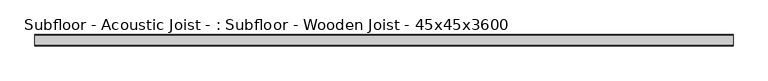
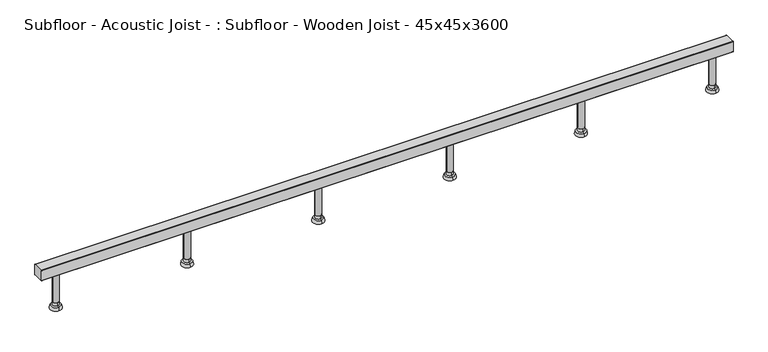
"""IFC4 building model written with IfcOpenShell, lengths in millimetres: beam geometry, Subfloor - Acoustic Joist - : Subfloor - Wooden Joist - 45x45x3600."""

from ifc_helpers import new_model, si_unit, point, frame, frame_2d, origin, place, context, project, spatial, polyline, circle_curve, trimmed, segment, composite_curve, outline, extrude, source, transform, mapped, element, save
from ifc_brep_helpers import plane_surface, cylinder_surface, revolved_surface, advanced_brep


def subfloor_acoustic_joist_subfloor_wooden_joist_45x45x3600_29be24ae(model_context):
    return source(origin(), model_context, "Body", "SolidModel", [
        extrude(outline(composite_curve([segment(trimmed(circle_curve(frame_2d((786.985173, 0.0)), 12.5043167), [point((774.4808562, 0.0))], [point((799.4894897, 0.0))], False, "CARTESIAN"), True, "CONTINUOUS"), segment(trimmed(circle_curve(frame_2d((786.985173, 0.0)), 12.5043167), [point((799.4894897, 0.0))], [point((774.4808562, 0.0))], False, "CARTESIAN"), True, "CONTINUOUS")], self_intersect=False)), frame((0.0, 0.0, -143.9999995), z_axis=(0.0, 0.0, 1.0), x_axis=(1.0, 0.0, 0.0)), (0.0, 0.0, 1.0), 121.4999995),
        advanced_brep(
        [(786.985173, 0.0, -172.5), (786.985173, -22.5, -172.5), (786.985173, 22.5, -172.5), (786.985173, 12.5043167, -143.9999995), (786.985173, -12.5043167, -143.9999995), (786.985173, 0.0, -143.9999995), (786.985173, 19.5414562, -159.856555), (786.985173, -19.5414562, -159.856555), (786.985173, -12.5043167, -158.5618465), (786.985173, 12.5043167, -158.5618465)],
        [
            (0, 1),
            (1, 2, circle_curve(frame((786.985173, 0.0, -172.5), z_axis=(0.0, 0.0, -1.0), x_axis=(0.0, -1.0, 0.0)), 22.5)),
            (2, 0),
            (2, 1, circle_curve(frame((786.985173, 0.0, -172.5), z_axis=(0.0, 0.0, -1.0), x_axis=(0.0, -1.0, 0.0)), 22.5)),
            (3, 4, circle_curve(frame((786.985173, 0.0, -143.9999995), z_axis=(0.0, 0.0, 1.0), x_axis=(0.0, -1.0, 0.0)), 12.5043167)),
            (4, 5),
            (5, 3),
            (4, 3, circle_curve(frame((786.985173, 0.0, -143.9999995), z_axis=(0.0, 0.0, 1.0), x_axis=(0.0, -1.0, 0.0)), 12.5043167)),
            (6, 7, circle_curve(frame((786.985173, 0.0, -159.856555), z_axis=(0.0, 0.0, 1.0), x_axis=(0.0, -1.0, 0.0)), 19.5414562)),
            (7, 8),
            (8, 9, circle_curve(frame((786.985173, 0.0, -158.5618465), z_axis=(0.0, 0.0, -1.0), x_axis=(0.0, -1.0, 0.0)), 12.5043167)),
            (9, 6),
            (7, 6, circle_curve(frame((786.985173, 0.0, -159.856555), z_axis=(0.0, 0.0, 1.0), x_axis=(0.0, -1.0, 0.0)), 19.5414562)),
            (9, 8, circle_curve(frame((786.985173, 0.0, -158.5618465), z_axis=(0.0, 0.0, -1.0), x_axis=(0.0, -1.0, 0.0)), 12.5043167)),
            (8, 4),
            (3, 9),
            (1, 7),
            (6, 2),
        ],
        [
            plane_surface(frame((786.985173, 0.0, -172.5), z_axis=(0.0, 0.0, -1.0), x_axis=(0.0, -1.0, 0.0))),
            plane_surface(frame((786.985173, 0.0, -143.9999995), z_axis=(0.0, 0.0, 1.0), x_axis=(0.0, -1.0, 0.0))),
            revolved_surface(polyline([(786.985173, -12.5043167, -158.5618465), (786.985173, -19.5414562, -159.856555)]), (786.985173, 0.0, -178.1427452), (0.0, 0.0, -1.0)),
            cylinder_surface(frame((786.985173, 0.0, -178.1427452), z_axis=(0.0, 0.0, -1.0), x_axis=(0.0, -1.0, 0.0)), 12.5043167),
            revolved_surface(polyline([(786.985173, -19.5414562, -159.856555), (786.985173, -22.5, -172.5)]), (786.985173, 0.0, -178.1427452), (0.0, 0.0, -1.0)),
        ],
        [
            (0, [[1, 2, 3]]),
            (0, [[-3, 4, -1]]),
            (1, [[5, 6, 7]]),
            (1, [[8, -7, -6]]),
            (2, [[9, 10, 11, 12]]),
            (2, [[13, -12, 14, -10]]),
            (3, [[-11, 15, -5, 16]]),
            (3, [[-14, -16, -8, -15]]),
            (4, [[-2, 17, -9, 18]]),
            (4, [[-4, -18, -13, -17]]),
        ],
    ),
        extrude(outline(composite_curve([segment(trimmed(circle_curve(frame_2d((262.328391, 0.0)), 12.5043167), [point((249.8240742, 0.0))], [point((274.8327077, 0.0))], False, "CARTESIAN"), True, "CONTINUOUS"), segment(trimmed(circle_curve(frame_2d((262.328391, 0.0)), 12.5043167), [point((274.8327077, 0.0))], [point((249.8240742, 0.0))], False, "CARTESIAN"), True, "CONTINUOUS")], self_intersect=False)), frame((0.0, 0.0, -143.9999995), z_axis=(0.0, 0.0, 1.0), x_axis=(1.0, 0.0, 0.0)), (0.0, 0.0, 1.0), 121.4999995),
        advanced_brep(
        [(262.328391, 0.0, -172.5), (262.328391, -22.5, -172.5), (262.328391, 22.5, -172.5), (262.328391, 12.5043167, -143.9999995), (262.328391, -12.5043167, -143.9999995), (262.328391, 0.0, -143.9999995), (262.328391, 19.5414562, -159.856555), (262.328391, -19.5414562, -159.856555), (262.328391, -12.5043167, -158.5618465), (262.328391, 12.5043167, -158.5618465)],
        [
            (0, 1),
            (1, 2, circle_curve(frame((262.328391, 0.0, -172.5), z_axis=(0.0, 0.0, -1.0), x_axis=(0.0, -1.0, 0.0)), 22.5)),
            (2, 0),
            (2, 1, circle_curve(frame((262.328391, 0.0, -172.5), z_axis=(0.0, 0.0, -1.0), x_axis=(0.0, -1.0, 0.0)), 22.5)),
            (3, 4, circle_curve(frame((262.328391, 0.0, -143.9999995), z_axis=(0.0, 0.0, 1.0), x_axis=(0.0, -1.0, 0.0)), 12.5043167)),
            (4, 5),
            (5, 3),
            (4, 3, circle_curve(frame((262.328391, 0.0, -143.9999995), z_axis=(0.0, 0.0, 1.0), x_axis=(0.0, -1.0, 0.0)), 12.5043167)),
            (6, 7, circle_curve(frame((262.328391, 0.0, -159.856555), z_axis=(0.0, 0.0, 1.0), x_axis=(0.0, -1.0, 0.0)), 19.5414562)),
            (7, 8),
            (8, 9, circle_curve(frame((262.328391, 0.0, -158.5618465), z_axis=(0.0, 0.0, -1.0), x_axis=(0.0, -1.0, 0.0)), 12.5043167)),
            (9, 6),
            (7, 6, circle_curve(frame((262.328391, 0.0, -159.856555), z_axis=(0.0, 0.0, 1.0), x_axis=(0.0, -1.0, 0.0)), 19.5414562)),
            (9, 8, circle_curve(frame((262.328391, 0.0, -158.5618465), z_axis=(0.0, 0.0, -1.0), x_axis=(0.0, -1.0, 0.0)), 12.5043167)),
            (8, 4),
            (3, 9),
            (1, 7),
            (6, 2),
        ],
        [
            plane_surface(frame((262.328391, 0.0, -172.5), z_axis=(0.0, 0.0, -1.0), x_axis=(0.0, -1.0, 0.0))),
            plane_surface(frame((262.328391, 0.0, -143.9999995), z_axis=(0.0, 0.0, 1.0), x_axis=(0.0, -1.0, 0.0))),
            revolved_surface(polyline([(262.328391, -12.5043167, -158.5618465), (262.328391, -19.5414562, -159.856555)]), (262.328391, 0.0, -178.1427452), (0.0, 0.0, -1.0)),
            cylinder_surface(frame((262.328391, 0.0, -178.1427452), z_axis=(0.0, 0.0, -1.0), x_axis=(0.0, -1.0, 0.0)), 12.5043167),
            revolved_surface(polyline([(262.328391, -19.5414562, -159.856555), (262.328391, -22.5, -172.5)]), (262.328391, 0.0, -178.1427452), (0.0, 0.0, -1.0)),
        ],
        [
            (0, [[1, 2, 3]]),
            (0, [[-3, 4, -1]]),
            (1, [[5, 6, 7]]),
            (1, [[8, -7, -6]]),
            (2, [[9, 10, 11, 12]]),
            (2, [[13, -12, 14, -10]]),
            (3, [[-11, 15, -5, 16]]),
            (3, [[-14, -16, -8, -15]]),
            (4, [[-2, 17, -9, 18]]),
            (4, [[-4, -18, -13, -17]]),
        ],
    ),
        extrude(outline(composite_curve([segment(trimmed(circle_curve(frame_2d((-262.328391, 0.0)), 12.5043167), [point((-274.8327077, 0.0))], [point((-249.8240742, 0.0))], False, "CARTESIAN"), True, "CONTINUOUS"), segment(trimmed(circle_curve(frame_2d((-262.328391, 0.0)), 12.5043167), [point((-249.8240742, 0.0))], [point((-274.8327077, 0.0))], False, "CARTESIAN"), True, "CONTINUOUS")], self_intersect=False)), frame((0.0, 0.0, -143.9999995), z_axis=(0.0, 0.0, 1.0), x_axis=(1.0, 0.0, 0.0)), (0.0, 0.0, 1.0), 121.4999995),
        advanced_brep(
        [(-262.328391, 0.0, -172.5), (-262.328391, -22.5, -172.5), (-262.328391, 22.5, -172.5), (-262.328391, 12.5043167, -143.9999995), (-262.328391, -12.5043167, -143.9999995), (-262.328391, 0.0, -143.9999995), (-262.328391, 19.5414562, -159.856555), (-262.328391, -19.5414562, -159.856555), (-262.328391, -12.5043167, -158.5618465), (-262.328391, 12.5043167, -158.5618465)],
        [
            (0, 1),
            (1, 2, circle_curve(frame((-262.328391, 0.0, -172.5), z_axis=(0.0, 0.0, -1.0), x_axis=(0.0, -1.0, 0.0)), 22.5)),
            (2, 0),
            (2, 1, circle_curve(frame((-262.328391, 0.0, -172.5), z_axis=(0.0, 0.0, -1.0), x_axis=(0.0, -1.0, 0.0)), 22.5)),
            (3, 4, circle_curve(frame((-262.328391, 0.0, -143.9999995), z_axis=(0.0, 0.0, 1.0), x_axis=(0.0, -1.0, 0.0)), 12.5043167)),
            (4, 5),
            (5, 3),
            (4, 3, circle_curve(frame((-262.328391, 0.0, -143.9999995), z_axis=(0.0, 0.0, 1.0), x_axis=(0.0, -1.0, 0.0)), 12.5043167)),
            (6, 7, circle_curve(frame((-262.328391, 0.0, -159.856555), z_axis=(0.0, 0.0, 1.0), x_axis=(0.0, -1.0, 0.0)), 19.5414562)),
            (7, 8),
            (8, 9, circle_curve(frame((-262.328391, 0.0, -158.5618465), z_axis=(0.0, 0.0, -1.0), x_axis=(0.0, -1.0, 0.0)), 12.5043167)),
            (9, 6),
            (7, 6, circle_curve(frame((-262.328391, 0.0, -159.856555), z_axis=(0.0, 0.0, 1.0), x_axis=(0.0, -1.0, 0.0)), 19.5414562)),
            (9, 8, circle_curve(frame((-262.328391, 0.0, -158.5618465), z_axis=(0.0, 0.0, -1.0), x_axis=(0.0, -1.0, 0.0)), 12.5043167)),
            (8, 4),
            (3, 9),
            (1, 7),
            (6, 2),
        ],
        [
            plane_surface(frame((-262.328391, 0.0, -172.5), z_axis=(0.0, 0.0, -1.0), x_axis=(0.0, -1.0, 0.0))),
            plane_surface(frame((-262.328391, 0.0, -143.9999995), z_axis=(0.0, 0.0, 1.0), x_axis=(0.0, -1.0, 0.0))),
            revolved_surface(polyline([(-262.328391, -12.5043167, -158.5618465), (-262.328391, -19.5414562, -159.856555)]), (-262.328391, 0.0, -178.1427452), (0.0, 0.0, -1.0)),
            cylinder_surface(frame((-262.328391, 0.0, -178.1427452), z_axis=(0.0, 0.0, -1.0), x_axis=(0.0, -1.0, 0.0)), 12.5043167),
            revolved_surface(polyline([(-262.328391, -19.5414562, -159.856555), (-262.328391, -22.5, -172.5)]), (-262.328391, 0.0, -178.1427452), (0.0, 0.0, -1.0)),
        ],
        [
            (0, [[1, 2, 3]]),
            (0, [[-3, 4, -1]]),
            (1, [[5, 6, 7]]),
            (1, [[8, -7, -6]]),
            (2, [[9, 10, 11, 12]]),
            (2, [[13, -12, 14, -10]]),
            (3, [[-11, 15, -5, 16]]),
            (3, [[-14, -16, -8, -15]]),
            (4, [[-2, 17, -9, 18]]),
            (4, [[-4, -18, -13, -17]]),
        ],
    ),
        extrude(outline(composite_curve([segment(trimmed(circle_curve(frame_2d((-786.985173, 0.0)), 12.5043167), [point((-799.4894897, 0.0))], [point((-774.4808562, 0.0))], False, "CARTESIAN"), True, "CONTINUOUS"), segment(trimmed(circle_curve(frame_2d((-786.985173, 0.0)), 12.5043167), [point((-774.4808562, 0.0))], [point((-799.4894897, 0.0))], False, "CARTESIAN"), True, "CONTINUOUS")], self_intersect=False)), frame((0.0, 0.0, -143.9999995), z_axis=(0.0, 0.0, 1.0), x_axis=(1.0, 0.0, 0.0)), (0.0, 0.0, 1.0), 121.4999995),
        advanced_brep(
        [(-786.985173, 0.0, -172.5), (-786.985173, -22.5, -172.5), (-786.985173, 22.5, -172.5), (-786.985173, 12.5043167, -143.9999995), (-786.985173, -12.5043167, -143.9999995), (-786.985173, 0.0, -143.9999995), (-786.985173, 19.5414562, -159.856555), (-786.985173, -19.5414562, -159.856555), (-786.985173, -12.5043167, -158.5618465), (-786.985173, 12.5043167, -158.5618465)],
        [
            (0, 1),
            (1, 2, circle_curve(frame((-786.985173, 0.0, -172.5), z_axis=(0.0, 0.0, -1.0), x_axis=(0.0, -1.0, 0.0)), 22.5)),
            (2, 0),
            (2, 1, circle_curve(frame((-786.985173, 0.0, -172.5), z_axis=(0.0, 0.0, -1.0), x_axis=(0.0, -1.0, 0.0)), 22.5)),
            (3, 4, circle_curve(frame((-786.985173, 0.0, -143.9999995), z_axis=(0.0, 0.0, 1.0), x_axis=(0.0, -1.0, 0.0)), 12.5043167)),
            (4, 5),
            (5, 3),
            (4, 3, circle_curve(frame((-786.985173, 0.0, -143.9999995), z_axis=(0.0, 0.0, 1.0), x_axis=(0.0, -1.0, 0.0)), 12.5043167)),
            (6, 7, circle_curve(frame((-786.985173, 0.0, -159.856555), z_axis=(0.0, 0.0, 1.0), x_axis=(0.0, -1.0, 0.0)), 19.5414562)),
            (7, 8),
            (8, 9, circle_curve(frame((-786.985173, 0.0, -158.5618465), z_axis=(0.0, 0.0, -1.0), x_axis=(0.0, -1.0, 0.0)), 12.5043167)),
            (9, 6),
            (7, 6, circle_curve(frame((-786.985173, 0.0, -159.856555), z_axis=(0.0, 0.0, 1.0), x_axis=(0.0, -1.0, 0.0)), 19.5414562)),
            (9, 8, circle_curve(frame((-786.985173, 0.0, -158.5618465), z_axis=(0.0, 0.0, -1.0), x_axis=(0.0, -1.0, 0.0)), 12.5043167)),
            (8, 4),
            (3, 9),
            (1, 7),
            (6, 2),
        ],
        [
            plane_surface(frame((-786.985173, 0.0, -172.5), z_axis=(0.0, 0.0, -1.0), x_axis=(0.0, -1.0, 0.0))),
            plane_surface(frame((-786.985173, 0.0, -143.9999995), z_axis=(0.0, 0.0, 1.0), x_axis=(0.0, -1.0, 0.0))),
            revolved_surface(polyline([(-786.985173, -12.5043167, -158.5618465), (-786.985173, -19.5414562, -159.856555)]), (-786.985173, 0.0, -178.1427452), (0.0, 0.0, -1.0)),
            cylinder_surface(frame((-786.985173, 0.0, -178.1427452), z_axis=(0.0, 0.0, -1.0), x_axis=(0.0, -1.0, 0.0)), 12.5043167),
            revolved_surface(polyline([(-786.985173, -19.5414562, -159.856555), (-786.985173, -22.5, -172.5)]), (-786.985173, 0.0, -178.1427452), (0.0, 0.0, -1.0)),
        ],
        [
            (0, [[1, 2, 3]]),
            (0, [[-3, 4, -1]]),
            (1, [[5, 6, 7]]),
            (1, [[8, -7, -6]]),
            (2, [[9, 10, 11, 12]]),
            (2, [[13, -12, 14, -10]]),
            (3, [[-11, 15, -5, 16]]),
            (3, [[-14, -16, -8, -15]]),
            (4, [[-2, 17, -9, 18]]),
            (4, [[-4, -18, -13, -17]]),
        ],
    ),
        extrude(outline(composite_curve([segment(trimmed(circle_curve(frame_2d((1311.641955, 0.0)), 12.5043167), [point((1299.1376382, 0.0))], [point((1324.1462717, 0.0))], False, "CARTESIAN"), True, "CONTINUOUS"), segment(trimmed(circle_curve(frame_2d((1311.641955, 0.0)), 12.5043167), [point((1324.1462717, 0.0))], [point((1299.1376382, 0.0))], False, "CARTESIAN"), True, "CONTINUOUS")], self_intersect=False)), frame((0.0, 0.0, -143.9999995), z_axis=(0.0, 0.0, 1.0), x_axis=(1.0, 0.0, 0.0)), (0.0, 0.0, 1.0), 121.4999995),
        advanced_brep(
        [(1311.641955, 0.0, -172.5), (1311.641955, -22.5, -172.5), (1311.641955, 22.5, -172.5), (1311.641955, 12.5043167, -143.9999995), (1311.641955, -12.5043167, -143.9999995), (1311.641955, 0.0, -143.9999995), (1311.641955, 19.5414562, -159.856555), (1311.641955, -19.5414562, -159.856555), (1311.641955, -12.5043167, -158.5618465), (1311.641955, 12.5043167, -158.5618465)],
        [
            (0, 1),
            (1, 2, circle_curve(frame((1311.641955, 0.0, -172.5), z_axis=(0.0, 0.0, -1.0), x_axis=(0.0, -1.0, 0.0)), 22.5)),
            (2, 0),
            (2, 1, circle_curve(frame((1311.641955, 0.0, -172.5), z_axis=(0.0, 0.0, -1.0), x_axis=(0.0, -1.0, 0.0)), 22.5)),
            (3, 4, circle_curve(frame((1311.641955, 0.0, -143.9999995), z_axis=(0.0, 0.0, 1.0), x_axis=(0.0, -1.0, 0.0)), 12.5043167)),
            (4, 5),
            (5, 3),
            (4, 3, circle_curve(frame((1311.641955, 0.0, -143.9999995), z_axis=(0.0, 0.0, 1.0), x_axis=(0.0, -1.0, 0.0)), 12.5043167)),
            (6, 7, circle_curve(frame((1311.641955, 0.0, -159.856555), z_axis=(0.0, 0.0, 1.0), x_axis=(0.0, -1.0, 0.0)), 19.5414562)),
            (7, 8),
            (8, 9, circle_curve(frame((1311.641955, 0.0, -158.5618465), z_axis=(0.0, 0.0, -1.0), x_axis=(0.0, -1.0, 0.0)), 12.5043167)),
            (9, 6),
            (7, 6, circle_curve(frame((1311.641955, 0.0, -159.856555), z_axis=(0.0, 0.0, 1.0), x_axis=(0.0, -1.0, 0.0)), 19.5414562)),
            (9, 8, circle_curve(frame((1311.641955, 0.0, -158.5618465), z_axis=(0.0, 0.0, -1.0), x_axis=(0.0, -1.0, 0.0)), 12.5043167)),
            (8, 4),
            (3, 9),
            (1, 7),
            (6, 2),
        ],
        [
            plane_surface(frame((1311.641955, 0.0, -172.5), z_axis=(0.0, 0.0, -1.0), x_axis=(0.0, -1.0, 0.0))),
            plane_surface(frame((1311.641955, 0.0, -143.9999995), z_axis=(0.0, 0.0, 1.0), x_axis=(0.0, -1.0, 0.0))),
            revolved_surface(polyline([(1311.641955, -12.5043167, -158.5618465), (1311.641955, -19.5414562, -159.856555)]), (1311.641955, 0.0, -178.1427452), (0.0, 0.0, -1.0)),
            cylinder_surface(frame((1311.641955, 0.0, -178.1427452), z_axis=(0.0, 0.0, -1.0), x_axis=(0.0, -1.0, 0.0)), 12.5043167),
            revolved_surface(polyline([(1311.641955, -19.5414562, -159.856555), (1311.641955, -22.5, -172.5)]), (1311.641955, 0.0, -178.1427452), (0.0, 0.0, -1.0)),
        ],
        [
            (0, [[1, 2, 3]]),
            (0, [[-3, 4, -1]]),
            (1, [[5, 6, 7]]),
            (1, [[8, -7, -6]]),
            (2, [[9, 10, 11, 12]]),
            (2, [[13, -12, 14, -10]]),
            (3, [[-11, 15, -5, 16]]),
            (3, [[-14, -16, -8, -15]]),
            (4, [[-2, 17, -9, 18]]),
            (4, [[-4, -18, -13, -17]]),
        ],
    ),
        extrude(outline(composite_curve([segment(trimmed(circle_curve(frame_2d((-1311.641955, 0.0)), 12.5043167), [point((-1324.1462717, 0.0))], [point((-1299.1376382, 0.0))], False, "CARTESIAN"), True, "CONTINUOUS"), segment(trimmed(circle_curve(frame_2d((-1311.641955, 0.0)), 12.5043167), [point((-1299.1376382, 0.0))], [point((-1324.1462717, 0.0))], False, "CARTESIAN"), True, "CONTINUOUS")], self_intersect=False)), frame((0.0, 0.0, -143.9999995), z_axis=(0.0, 0.0, 1.0), x_axis=(1.0, 0.0, 0.0)), (0.0, 0.0, 1.0), 121.4999995),
        advanced_brep(
        [(-1311.641955, 0.0, -172.5), (-1311.641955, -22.5, -172.5), (-1311.641955, 22.5, -172.5), (-1311.641955, 12.5043167, -143.9999995), (-1311.641955, -12.5043167, -143.9999995), (-1311.641955, 0.0, -143.9999995), (-1311.641955, 19.5414562, -159.856555), (-1311.641955, -19.5414562, -159.856555), (-1311.641955, -12.5043167, -158.5618465), (-1311.641955, 12.5043167, -158.5618465)],
        [
            (0, 1),
            (1, 2, circle_curve(frame((-1311.641955, 0.0, -172.5), z_axis=(0.0, 0.0, -1.0), x_axis=(0.0, -1.0, 0.0)), 22.5)),
            (2, 0),
            (2, 1, circle_curve(frame((-1311.641955, 0.0, -172.5), z_axis=(0.0, 0.0, -1.0), x_axis=(0.0, -1.0, 0.0)), 22.5)),
            (3, 4, circle_curve(frame((-1311.641955, 0.0, -143.9999995), z_axis=(0.0, 0.0, 1.0), x_axis=(0.0, -1.0, 0.0)), 12.5043167)),
            (4, 5),
            (5, 3),
            (4, 3, circle_curve(frame((-1311.641955, 0.0, -143.9999995), z_axis=(0.0, 0.0, 1.0), x_axis=(0.0, -1.0, 0.0)), 12.5043167)),
            (6, 7, circle_curve(frame((-1311.641955, 0.0, -159.856555), z_axis=(0.0, 0.0, 1.0), x_axis=(0.0, -1.0, 0.0)), 19.5414562)),
            (7, 8),
            (8, 9, circle_curve(frame((-1311.641955, 0.0, -158.5618465), z_axis=(0.0, 0.0, -1.0), x_axis=(0.0, -1.0, 0.0)), 12.5043167)),
            (9, 6),
            (7, 6, circle_curve(frame((-1311.641955, 0.0, -159.856555), z_axis=(0.0, 0.0, 1.0), x_axis=(0.0, -1.0, 0.0)), 19.5414562)),
            (9, 8, circle_curve(frame((-1311.641955, 0.0, -158.5618465), z_axis=(0.0, 0.0, -1.0), x_axis=(0.0, -1.0, 0.0)), 12.5043167)),
            (8, 4),
            (3, 9),
            (1, 7),
            (6, 2),
        ],
        [
            plane_surface(frame((-1311.641955, 0.0, -172.5), z_axis=(0.0, 0.0, -1.0), x_axis=(0.0, -1.0, 0.0))),
            plane_surface(frame((-1311.641955, 0.0, -143.9999995), z_axis=(0.0, 0.0, 1.0), x_axis=(0.0, -1.0, 0.0))),
            revolved_surface(polyline([(-1311.641955, -12.5043167, -158.5618465), (-1311.641955, -19.5414562, -159.856555)]), (-1311.641955, 0.0, -178.1427452), (0.0, 0.0, -1.0)),
            cylinder_surface(frame((-1311.641955, 0.0, -178.1427452), z_axis=(0.0, 0.0, -1.0), x_axis=(0.0, -1.0, 0.0)), 12.5043167),
            revolved_surface(polyline([(-1311.641955, -19.5414562, -159.856555), (-1311.641955, -22.5, -172.5)]), (-1311.641955, 0.0, -178.1427452), (0.0, 0.0, -1.0)),
        ],
        [
            (0, [[1, 2, 3]]),
            (0, [[-3, 4, -1]]),
            (1, [[5, 6, 7]]),
            (1, [[8, -7, -6]]),
            (2, [[9, 10, 11, 12]]),
            (2, [[13, -12, 14, -10]]),
            (3, [[-11, 15, -5, 16]]),
            (3, [[-14, -16, -8, -15]]),
            (4, [[-2, 17, -9, 18]]),
            (4, [[-4, -18, -13, -17]]),
        ],
    ),
        extrude(outline(composite_curve([segment(polyline([(-20.5, 22.5), (20.5, 22.5)]), True, "CONTINUOUS"), segment(trimmed(circle_curve(frame_2d((20.5, 20.5)), 2.0), [point((20.5, 22.5))], [point((22.5, 20.5))], False, "CARTESIAN"), True, "CONTINUOUS"), segment(polyline([(22.5, 20.5), (22.5, -20.5)]), True, "CONTINUOUS"), segment(trimmed(circle_curve(frame_2d((20.5, -20.5)), 2.0), [point((22.5, -20.5))], [point((20.5, -22.5))], False, "CARTESIAN"), True, "CONTINUOUS"), segment(polyline([(20.5, -22.5), (-20.5, -22.5)]), True, "CONTINUOUS"), segment(trimmed(circle_curve(frame_2d((-20.5, -20.5)), 2.0), [point((-20.5, -22.5))], [point((-22.5, -20.5))], False, "CARTESIAN"), True, "CONTINUOUS"), segment(polyline([(-22.5, -20.5), (-22.5, 20.5)]), True, "CONTINUOUS"), segment(trimmed(circle_curve(frame_2d((-20.5, 20.5)), 2.0), [point((-22.5, 20.5))], [point((-20.5, 22.5))], False, "CARTESIAN"), True, "CONTINUOUS")], self_intersect=False)), frame((-1381.641955, 0.0, 0.0), z_axis=(1.0, 0.0, 0.0), x_axis=(0.0, 1.0, 0.0)), (0.0, 0.0, 1.0), 2763.28391),
    ])


if __name__ == "__main__":
    model = new_model("IFC4")
    model_context = context("Model", 3, world=origin())
    ifc_project = project(units=[si_unit("LENGTHUNIT", "METRE", prefix="MILLI")], contexts=[model_context])
    site = spatial("IfcSite", under=ifc_project)
    building = spatial("IfcBuilding", under=site)
    placement = place(None, origin())
    subfloor_acoustic_joist_subfloor_wooden_joist_45x45x3600_shape = subfloor_acoustic_joist_subfloor_wooden_joist_45x45x3600_29be24ae(model_context)
    element("IfcBeam", 1, ObjectType="Subfloor - Acoustic Joist - : Subfloor - Wooden Joist - 45x45x3600", at=placement, inside=building, context=model_context, shape_type="MappedRepresentation", body=[
        mapped(subfloor_acoustic_joist_subfloor_wooden_joist_45x45x3600_shape, transform((0.0, 0.0, 0.0), x_axis=(1.0, 0.0, 0.0), y_axis=(0.0, 1.0, 0.0), z_axis=(0.0, 0.0, 1.0))),
    ])
    save(model, "model.ifc")
